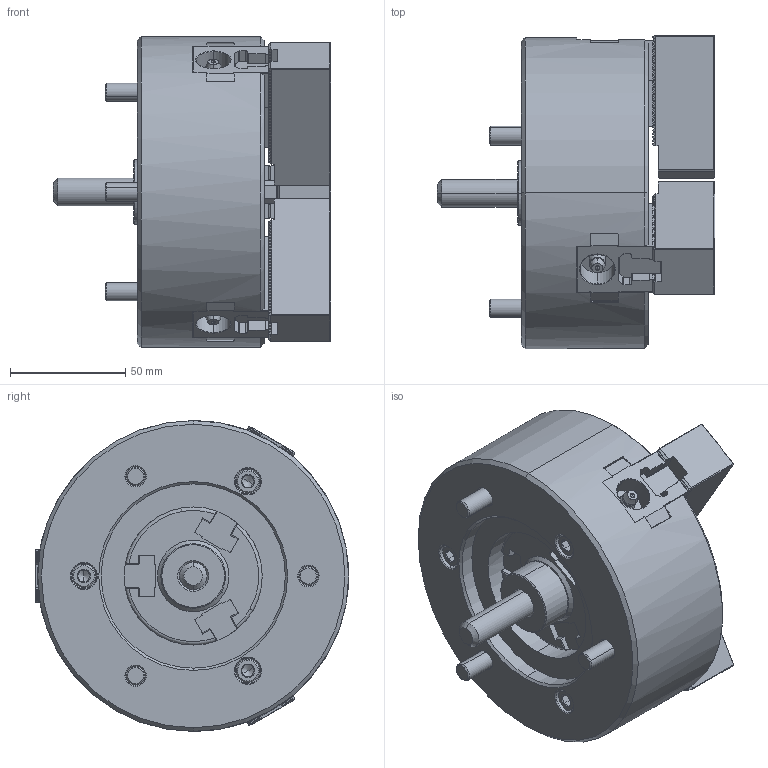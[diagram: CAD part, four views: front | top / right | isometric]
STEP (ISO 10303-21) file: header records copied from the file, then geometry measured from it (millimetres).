
FILE_DESCRIPTION (( 'STEP AP214' ), '1' );
FILE_NAME ('DT1_N-05_OUTSIDE_VIEW_HCL.STEP', '2026-03-13T02:02:01', ( '' ), ( '' ), 'SwSTEP 2.0', 'SolidWorks 2022', '' );
FILE_SCHEMA (( 'AUTOMOTIVE_DESIGN' ));
Length unit declared in the file: millimetre
Products named in the file (10): DT1_N-05_M4x8^DT1_N-05; DT1_N-05_M8x22^DT1_N-05; DT1_N-05_M8x60^DT1_N-05; DT1_N-05_BASE^DT1_N-05; DT1_N-05_OUTSIDE_VIEW_HCL; DT1_N-05_COVER^DT1_N-05; DT1_N-05_DN^DT1_N-05; DT1_N-05_DRAWSCREW^DT1_N-05; DT1_N-05_TNUT^DT1_N-05; DT1_N-05_SOFTJAW^DT1_N-05
Assembly tree (22 placements, depth 2):
  DT1_N-05_OUTSIDE_VIEW_HCL
    DT1_N-05_SOFTJAW^DT1_N-05  x3
    DT1_N-05_TNUT^DT1_N-05  x3
    DT1_N-05_COVER^DT1_N-05
    DT1_N-05_DRAWSCREW^DT1_N-05
    DT1_N-05_DN^DT1_N-05
    DT1_N-05_BASE^DT1_N-05
    DT1_N-05_M8x22^DT1_N-05  x6
    DT1_N-05_M8x60^DT1_N-05  x3
    DT1_N-05_M4x8^DT1_N-05  x3
Bounding box: 120.6 x 136.03 x 135 mm (x, y, z)
Volume: 832761 mm3; surface area: 142745.4 mm2
Topology: 22 solids, 25 shells, 3541 faces, 9920 edges, 6481 vertices
Faces by surface type: plane 2264, cylinder 826, cone 277, bspline 116, torus 52, sphere 6
Entity records: 87479 total; most frequent: CARTESIAN_POINT 23905, ORIENTED_EDGE 14072, DIRECTION 11770, EDGE_CURVE 7036, VECTOR 5252, LINE 5252, VERTEX_POINT 4608, AXIS2_PLACEMENT_3D 3259
